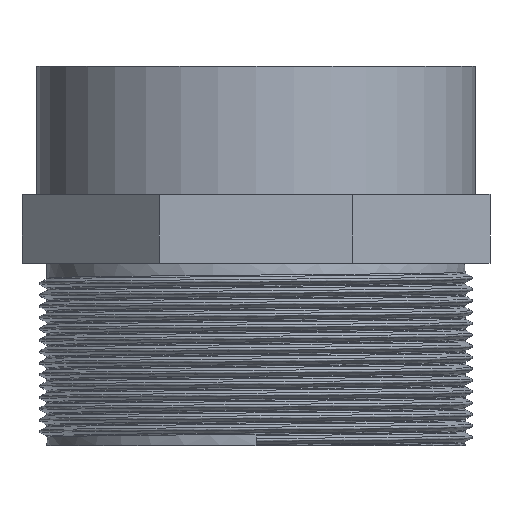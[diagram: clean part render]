
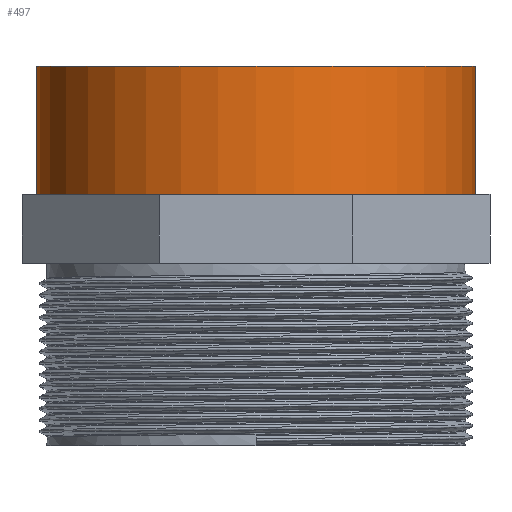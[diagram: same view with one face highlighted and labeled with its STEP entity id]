
A CAD part, front view. The second image highlights one B-rep face of the part: STEP entity #497.
In plain terms, the highlighted cylindrical face has radius 44.5 mm (diameter 89 mm), a full revolution.
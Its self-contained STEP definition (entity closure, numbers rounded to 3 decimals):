
#18=FACE_BOUND('',#171,.T.);
#26=CYLINDRICAL_SURFACE('',#532,44.5);
#136=FACE_OUTER_BOUND('',#170,.T.);
#170=EDGE_LOOP('',(#445));
#171=EDGE_LOOP('',(#446));
#211=CIRCLE('',#522,44.5);
#212=CIRCLE('',#533,44.5);
#248=VERTEX_POINT('',#11215);
#257=VERTEX_POINT('',#11251);
#307=EDGE_CURVE('',#248,#248,#211,.T.);
#324=EDGE_CURVE('',#257,#257,#212,.T.);
#445=ORIENTED_EDGE('',*,*,#307,.T.);
#446=ORIENTED_EDGE('',*,*,#324,.F.);
#497=ADVANCED_FACE('',(#136,#18),#26,.T.);
#522=AXIS2_PLACEMENT_3D('',#11216,#595,#596);
#532=AXIS2_PLACEMENT_3D('',#11250,#631,#632);
#533=AXIS2_PLACEMENT_3D('',#11252,#633,#634);
#595=DIRECTION('center_axis',(0.,0.,1.));
#596=DIRECTION('ref_axis',(1.,0.,0.));
#631=DIRECTION('center_axis',(0.,0.,1.));
#632=DIRECTION('ref_axis',(1.,0.,0.));
#633=DIRECTION('center_axis',(0.,0.,1.));
#634=DIRECTION('ref_axis',(1.,0.,0.));
#11215=CARTESIAN_POINT('',(44.5,0.,51.));
#11216=CARTESIAN_POINT('Origin',(0.,0.,51.));
#11250=CARTESIAN_POINT('Origin',(0.,0.,64.));
#11251=CARTESIAN_POINT('',(44.5,0.,77.));
#11252=CARTESIAN_POINT('Origin',(0.,0.,77.));
